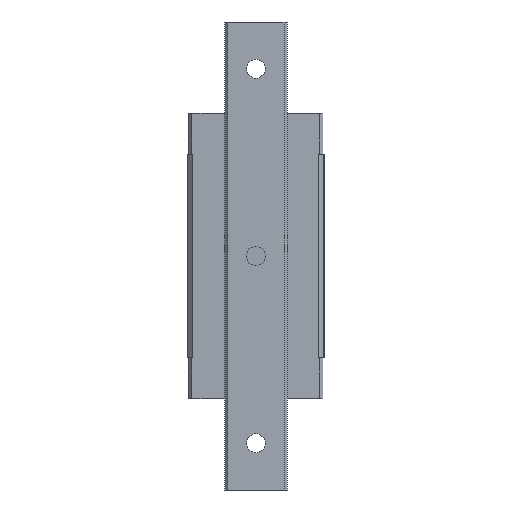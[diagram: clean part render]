
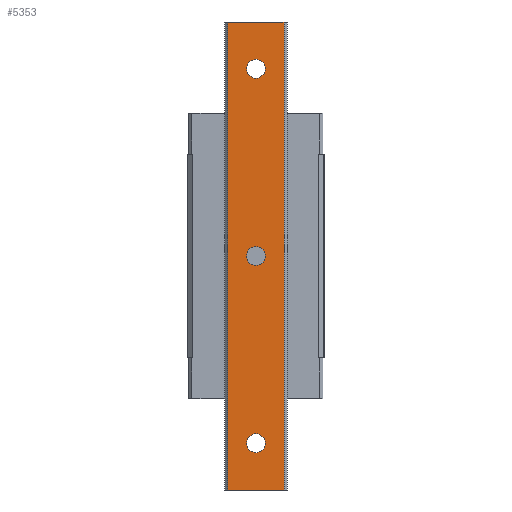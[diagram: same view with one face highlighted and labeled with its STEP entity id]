
A CAD part, front view. The second image highlights one B-rep face of the part: STEP entity #5353.
In plain terms, the highlighted planar face has unit normal (0, -1, 0).
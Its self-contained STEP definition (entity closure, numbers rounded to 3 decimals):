
#4135=DIRECTION('',(1.,0.,0.));
#4136=VECTOR('',#4135,18.);
#4137=CARTESIAN_POINT('',(-9.,-17.5,-75.));
#4138=LINE('',#4137,#4136);
#4309=DIRECTION('',(0.,0.,1.));
#4310=VECTOR('',#4309,150.);
#4311=CARTESIAN_POINT('',(9.,-17.5,-75.));
#4312=LINE('',#4311,#4310);
#4313=DIRECTION('',(0.,0.,1.));
#4314=VECTOR('',#4313,150.);
#4315=CARTESIAN_POINT('',(-9.,-17.5,-75.));
#4316=LINE('',#4315,#4314);
#4317=DIRECTION('',(1.,0.,0.));
#4318=VECTOR('',#4317,18.);
#4319=CARTESIAN_POINT('',(-9.,-17.5,75.));
#4320=LINE('',#4319,#4318);
#4321=CARTESIAN_POINT('',(0.,-17.5,0.));
#4322=DIRECTION('',(0.,-1.,0.));
#4323=DIRECTION('',(1.,0.,0.));
#4324=AXIS2_PLACEMENT_3D('',#4321,#4322,#4323);
#4326=CARTESIAN_POINT('',(0.,-17.5,0.));
#4327=DIRECTION('',(0.,-1.,0.));
#4328=DIRECTION('',(-1.,0.,0.));
#4329=AXIS2_PLACEMENT_3D('',#4326,#4327,#4328);
#4331=CARTESIAN_POINT('',(0.,-17.5,60.));
#4332=DIRECTION('',(0.,-1.,0.));
#4333=DIRECTION('',(1.,0.,0.));
#4334=AXIS2_PLACEMENT_3D('',#4331,#4332,#4333);
#4336=CARTESIAN_POINT('',(0.,-17.5,60.));
#4337=DIRECTION('',(0.,-1.,0.));
#4338=DIRECTION('',(-1.,0.,0.));
#4339=AXIS2_PLACEMENT_3D('',#4336,#4337,#4338);
#4341=CARTESIAN_POINT('',(0.,-17.5,-60.));
#4342=DIRECTION('',(0.,-1.,0.));
#4343=DIRECTION('',(1.,0.,0.));
#4344=AXIS2_PLACEMENT_3D('',#4341,#4342,#4343);
#4346=CARTESIAN_POINT('',(0.,-17.5,-60.));
#4347=DIRECTION('',(0.,-1.,0.));
#4348=DIRECTION('',(-1.,0.,0.));
#4349=AXIS2_PLACEMENT_3D('',#4346,#4347,#4348);
#4793=CARTESIAN_POINT('',(-9.,-17.5,-75.));
#4794=VERTEX_POINT('',#4793);
#4795=CARTESIAN_POINT('',(9.,-17.5,-75.));
#4796=VERTEX_POINT('',#4795);
#4869=CARTESIAN_POINT('',(9.,-17.5,75.));
#4870=VERTEX_POINT('',#4869);
#4871=CARTESIAN_POINT('',(-9.,-17.5,75.));
#4872=VERTEX_POINT('',#4871);
#4873=CARTESIAN_POINT('',(3.,-17.5,0.));
#4874=CARTESIAN_POINT('',(-3.,-17.5,0.));
#4875=VERTEX_POINT('',#4873);
#4876=VERTEX_POINT('',#4874);
#4877=CARTESIAN_POINT('',(3.,-17.5,60.));
#4878=CARTESIAN_POINT('',(-3.,-17.5,60.));
#4879=VERTEX_POINT('',#4877);
#4880=VERTEX_POINT('',#4878);
#4881=CARTESIAN_POINT('',(3.,-17.5,-60.));
#4882=CARTESIAN_POINT('',(-3.,-17.5,-60.));
#4883=VERTEX_POINT('',#4881);
#4884=VERTEX_POINT('',#4882);
#5322=CARTESIAN_POINT('',(-9.,-17.5,-75.));
#5323=DIRECTION('',(0.,-1.,0.));
#5324=DIRECTION('',(1.,0.,0.));
#5325=AXIS2_PLACEMENT_3D('',#5322,#5323,#5324);
#5326=PLANE('',#5325);
#5327=ORIENTED_EDGE('',*,*,#5014,.F.);
#5329=ORIENTED_EDGE('',*,*,#5328,.T.);
#5331=ORIENTED_EDGE('',*,*,#5330,.T.);
#5332=ORIENTED_EDGE('',*,*,#5314,.F.);
#5333=EDGE_LOOP('',(#5327,#5329,#5331,#5332));
#5334=FACE_OUTER_BOUND('',#5333,.F.);
#5336=ORIENTED_EDGE('',*,*,#5335,.T.);
#5338=ORIENTED_EDGE('',*,*,#5337,.T.);
#5339=EDGE_LOOP('',(#5336,#5338));
#5340=FACE_BOUND('',#5339,.F.);
#5342=ORIENTED_EDGE('',*,*,#5341,.T.);
#5344=ORIENTED_EDGE('',*,*,#5343,.T.);
#5345=EDGE_LOOP('',(#5342,#5344));
#5346=FACE_BOUND('',#5345,.F.);
#5348=ORIENTED_EDGE('',*,*,#5347,.T.);
#5350=ORIENTED_EDGE('',*,*,#5349,.T.);
#5351=EDGE_LOOP('',(#5348,#5350));
#5352=FACE_BOUND('',#5351,.F.);
#5353=ADVANCED_FACE('',(#5334,#5340,#5346,#5352),#5326,.T.);
#4325=CIRCLE('',#4324,3.);
#4330=CIRCLE('',#4329,3.);
#4335=CIRCLE('',#4334,3.);
#4340=CIRCLE('',#4339,3.);
#4345=CIRCLE('',#4344,3.);
#4350=CIRCLE('',#4349,3.);
#5014=EDGE_CURVE('',#4794,#4796,#4138,.T.);
#5314=EDGE_CURVE('',#4796,#4870,#4312,.T.);
#5328=EDGE_CURVE('',#4794,#4872,#4316,.T.);
#5330=EDGE_CURVE('',#4872,#4870,#4320,.T.);
#5335=EDGE_CURVE('',#4875,#4876,#4325,.T.);
#5337=EDGE_CURVE('',#4876,#4875,#4330,.T.);
#5341=EDGE_CURVE('',#4879,#4880,#4335,.T.);
#5343=EDGE_CURVE('',#4880,#4879,#4340,.T.);
#5347=EDGE_CURVE('',#4883,#4884,#4345,.T.);
#5349=EDGE_CURVE('',#4884,#4883,#4350,.T.);
